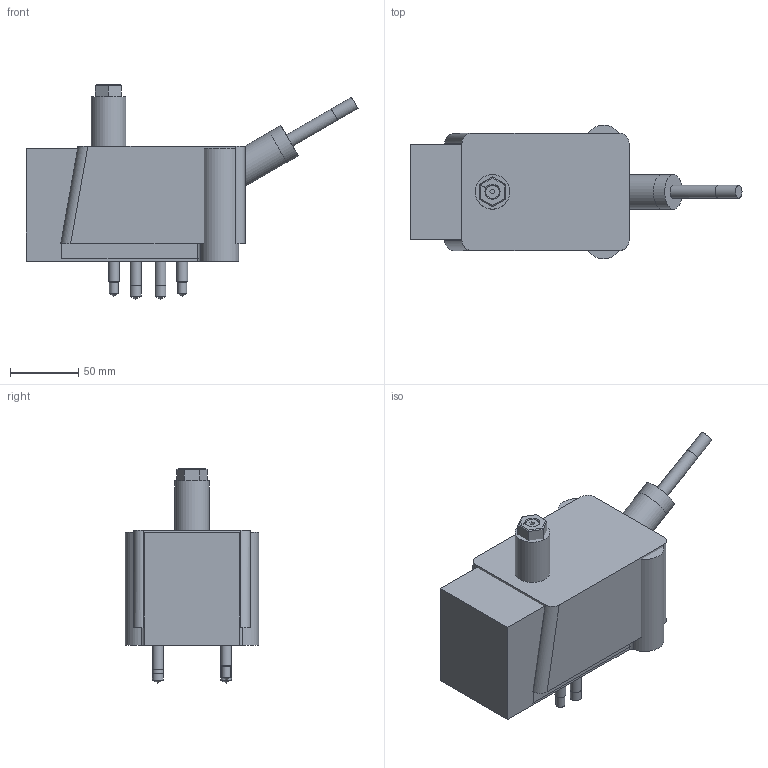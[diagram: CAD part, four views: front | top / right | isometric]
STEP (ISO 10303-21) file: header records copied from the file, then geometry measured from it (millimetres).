
FILE_DESCRIPTION(('STEP AP214'),'1');
FILE_NAME('0011_EZ-30-S_201209.stp','2020-12-14T12:27:56',(' '),(' '),'Spatial InterOp 3D',' ',' ');
FILE_SCHEMA(('AUTOMOTIVE_DESIGN { 1 0 10303 214 1 1 1 1 }'));
Length unit declared in the file: metre
Products named in the file (18): 1607693331; 1583159039; 1580702757; 1580702734; 1580691960; 1580700033; 1580688335; 1580688599; 1580688640; 1580689014; 1580689030; 1580689046; 1580689062; 1580689236; 1580689244; 1562100740; 1562099358; 1
Bounding box: 243.09 x 97.7 x 156.95 mm (x, y, z)
Volume: 2475352.3 mm3; surface area: 231150.9 mm2
Topology: 17 solids, 17 shells, 247 faces, 545 edges, 350 vertices
Faces by surface type: plane 139, cylinder 62, cone 35, torus 5, bspline 4, sphere 2
Full cylindrical faces by diameter (mm): 3.175 x1, 3.797 x1, 4.089 x1, 4.826 x3, 5.159 x1, 6.35 x1, 6.528 x2, 7.938 x11, 8.433 x1, 8.5 x2, 8.731 x1, 9.5 x1, 9.525 x4, 11.906 x2, 12.7 x4, 14.25 x2, 15.875 x1, 25.146 x1, 25.4 x1, 25.527 x1, 26.746 x2, 27 x2, 50.292 x1, 50.8 x1
Entity records: 18875 total; most frequent: CARTESIAN_POINT 11624, DIRECTION 1092, ORIENTED_EDGE 838, AXIS2_PLACEMENT_3D 427, EDGE_CURVE 419, EDGE_LOOP 370, VERTEX_POINT 319, FACE_OUTER_BOUND 300
